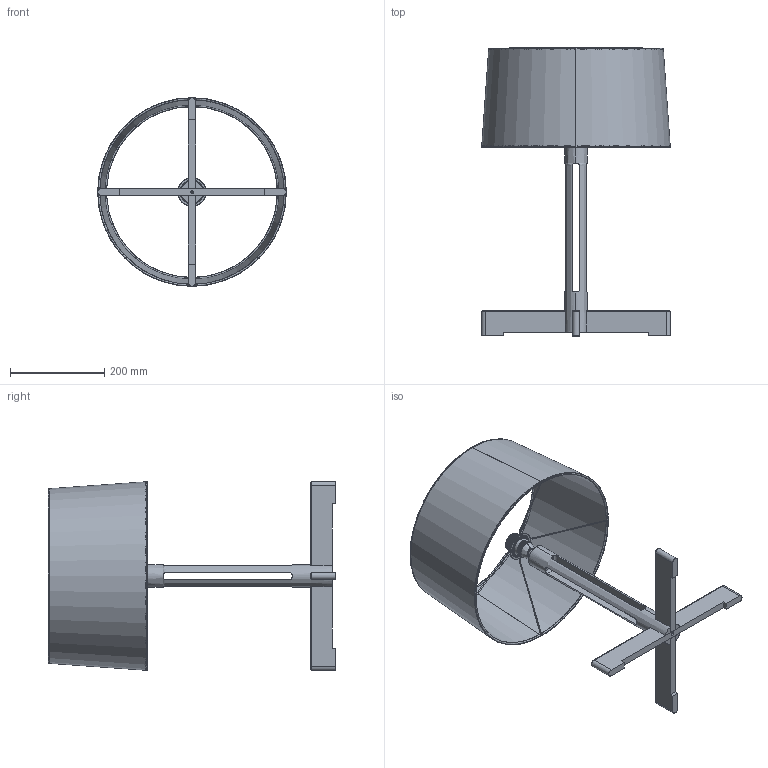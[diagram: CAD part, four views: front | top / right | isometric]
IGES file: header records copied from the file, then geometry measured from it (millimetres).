
Start section: SolidWorks IGES file using analytic representation for surfaces
Global section: file name: C:\Users\marc.torres\Desktop\Pujar a web\FAD_sm_3D.IGS; native system: SolidWorks 2015; preprocessor: SolidWorks 2015; author: marc.torres; date: 151216.171040; units: millimetre
Bounding box: 400.1 x 609.89 x 400.1 mm (x, y, z)
Surface area: 756945.2 mm2 (no closed solid volume)
Topology: 0 solids, 0 shells, 384 faces, 4860 edges, 4858 vertices
Faces by surface type: revolution 247, bspline 137
